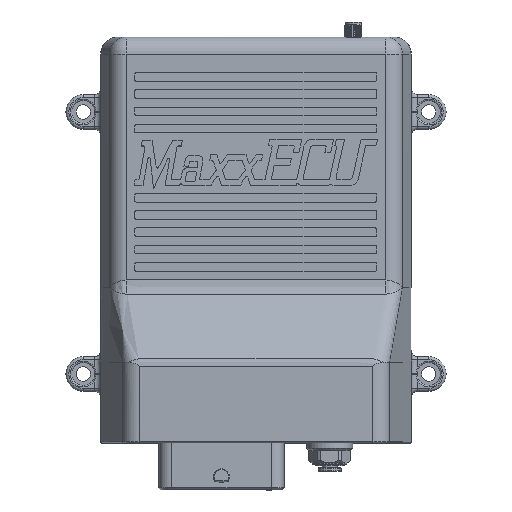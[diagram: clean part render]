
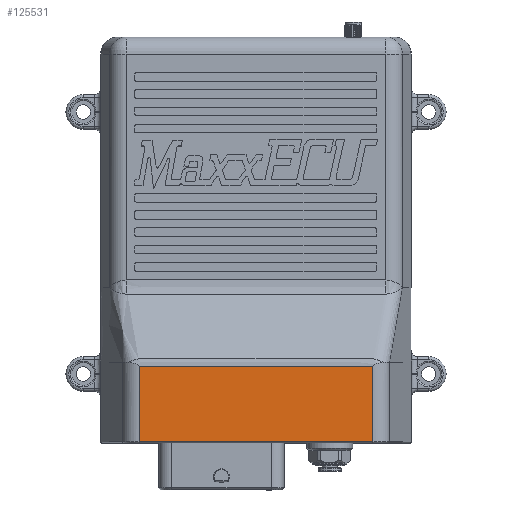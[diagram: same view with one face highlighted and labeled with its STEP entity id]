
A CAD part, top view. The second image highlights one B-rep face of the part: STEP entity #125531.
In plain terms, the highlighted planar face has unit normal (0, 0, 1).
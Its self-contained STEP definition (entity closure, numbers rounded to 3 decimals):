
#11609=FACE_OUTER_BOUND('',#18561,.T.);
#18561=EDGE_LOOP('',(#113053,#113054,#113055,#113056));
#33421=LINE('',#220386,#48213);
#33422=LINE('',#220390,#48214);
#33423=LINE('',#220392,#48215);
#33424=LINE('',#220393,#48216);
#48213=VECTOR('',#166171,1.);
#48214=VECTOR('',#166176,10.);
#48215=VECTOR('',#166177,1.);
#48216=VECTOR('',#166178,1.);
#59856=VERTEX_POINT('',#220376);
#59857=VERTEX_POINT('',#220385);
#59858=VERTEX_POINT('',#220389);
#59859=VERTEX_POINT('',#220391);
#77700=EDGE_CURVE('',#59856,#59857,#33421,.T.);
#77702=EDGE_CURVE('',#59856,#59858,#33422,.T.);
#77703=EDGE_CURVE('',#59858,#59859,#33423,.T.);
#77704=EDGE_CURVE('',#59859,#59857,#33424,.F.);
#113053=ORIENTED_EDGE('',*,*,#77700,.F.);
#113054=ORIENTED_EDGE('',*,*,#77702,.T.);
#113055=ORIENTED_EDGE('',*,*,#77703,.T.);
#113056=ORIENTED_EDGE('',*,*,#77704,.T.);
#119328=PLANE('',#134284);
#125531=ADVANCED_FACE('',(#11609),#119328,.T.);
#134284=AXIS2_PLACEMENT_3D('',#220388,#166174,#166175);
#166171=DIRECTION('',(0.,-1.,0.));
#166174=DIRECTION('center_axis',(0.,0.,1.));
#166175=DIRECTION('ref_axis',(-1.,0.,0.));
#166176=DIRECTION('',(-1.,0.,0.));
#166177=DIRECTION('',(0.,-1.,0.));
#166178=DIRECTION('',(-1.,0.,0.));
#220376=CARTESIAN_POINT('',(229.642,47.128,32.4));
#220385=CARTESIAN_POINT('',(229.642,20.966,32.4));
#220386=CARTESIAN_POINT('',(229.642,48.466,32.4));
#220388=CARTESIAN_POINT('Origin',(229.642,48.466,32.4));
#220389=CARTESIAN_POINT('',(148.451,47.128,32.4));
#220390=CARTESIAN_POINT('',(229.642,47.128,32.4));
#220391=CARTESIAN_POINT('',(148.451,20.966,32.4));
#220392=CARTESIAN_POINT('',(148.451,48.466,32.4));
#220393=CARTESIAN_POINT('',(229.642,20.966,32.4));
